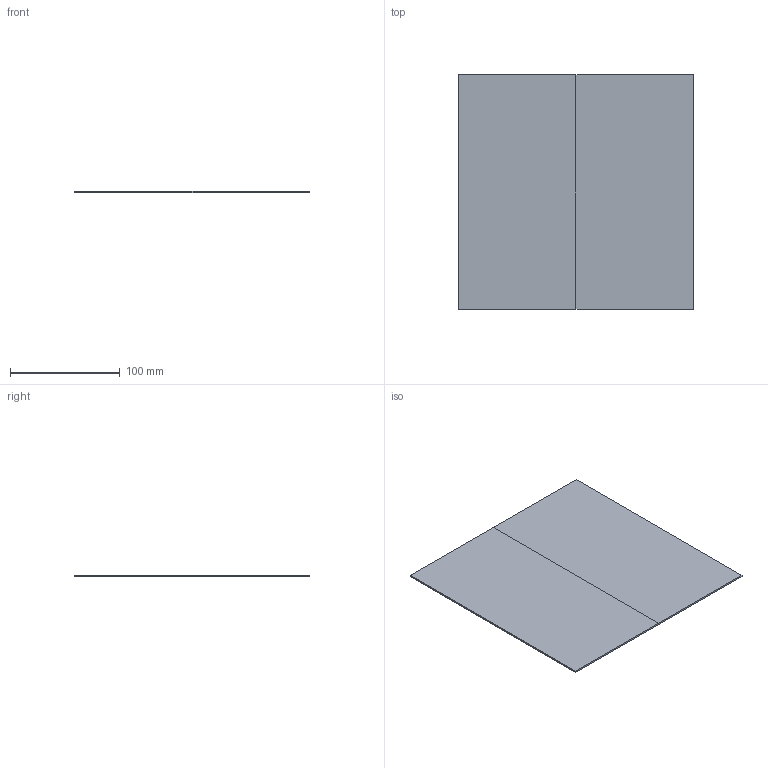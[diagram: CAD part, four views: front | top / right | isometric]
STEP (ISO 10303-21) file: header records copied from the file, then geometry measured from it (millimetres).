
FILE_DESCRIPTION(/* description */ (''),/* implementation_level */ '2;1');
FILE_NAME(/* name */ 'Cama',/* time_stamp */ '2019-04-01T20:07:43-03:00',/* author */ (''),/* organization */ (''),/* preprocessor_version */ 'ST-DEVELOPER v16.5',/* originating_system */ '',/* authorisation */ '');
FILE_SCHEMA (('AUTOMOTIVE_DESIGN'));
Length unit declared in the file: millimetre
Products named in the file (1): Document
Bounding box: 214 x 214 x 1.5 mm (x, y, z)
Volume: 68694 mm3; surface area: 92876 mm2
Topology: 1 solids, 1 shells, 10 faces, 20 edges, 12 vertices
Faces by surface type: plane 10
Entity records: 241 total; most frequent: CARTESIAN_POINT 64, ORIENTED_EDGE 40, EDGE_CURVE 20, B_SPLINE_CURVE_WITH_KNOTS 20, DIRECTION 14, VERTEX_POINT 12, AXIS2_PLACEMENT_3D 12, ADVANCED_FACE 10
